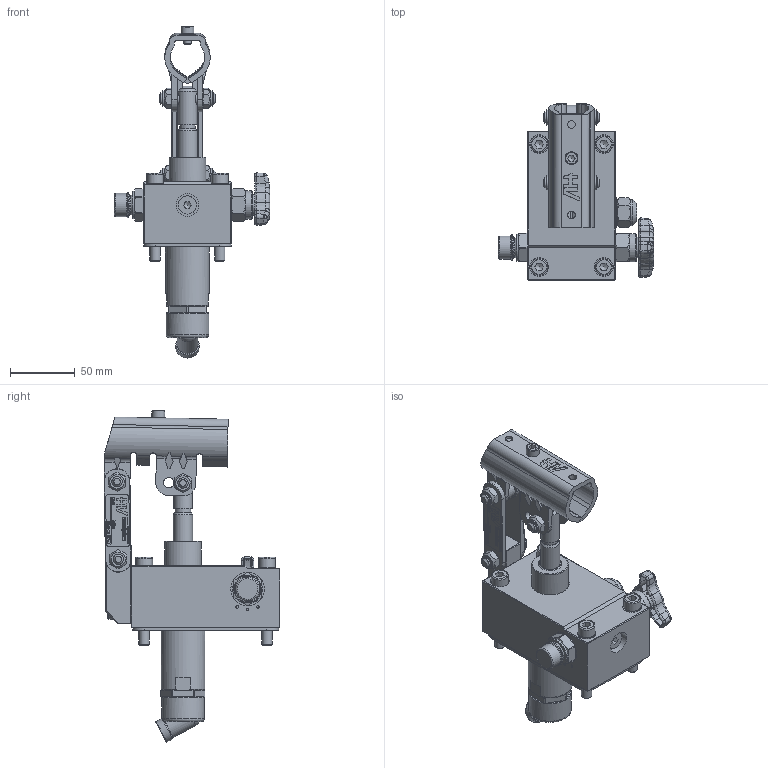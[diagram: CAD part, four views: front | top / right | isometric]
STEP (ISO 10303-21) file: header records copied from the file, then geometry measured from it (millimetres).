
FILE_DESCRIPTION((''),'2;1');
FILE_NAME('G:\HV_HYDRAULIC\AZIENDA_HV_HYDRAULIC\ARCHIVIO_DISEGNI\5_PRODOTTI_FINITI\1_POMPE_MANUALI\6050_PM_12\6050.5000_PM_12_byB_(HV)_(ZG+sig_15)_(NBR)\6050.5000.stp','2024-02-28T08:02:13',('christian.scardovi'),(''),'Autodesk Inventor 2013','Autodesk Inventor 2013','');
FILE_SCHEMA(('AUTOMOTIVE_DESIGN { 1 0 10303 214 1 1 1 1 }'));
Length unit declared in the file: millimetre
Products named in the file (1): 6050.5000
Bounding box: 120 x 135.99 x 256.81 mm (x, y, z)
Volume: 535059.6 mm3; surface area: 120631.1 mm2
Topology: 3 solids, 3 shells, 1623 faces, 4049 edges, 2557 vertices
Faces by surface type: plane 833, cylinder 294, bspline 233, cone 157, torus 101, sphere 5
Full cylindrical faces by diameter (mm): 2 x6, 4 x3, 5 x1, 6 x4, 6.5 x2, 6.8 x2, 6.917 x2, 7 x1, 8 x15, 8.917 x1, 9 x2, 9.2 x1, 10 x2, 10.376 x1, 11.05 x6, 12 x7, 13 x6, 13.2 x1, 14 x3, 14.5 x7, 14.6 x1, 14.95 x4, 15 x3, 16 x4, 16.6 x3, 17 x1, 17.5 x1, 18 x6, 20 x5, 21 x2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
Entity records: 54801 total; most frequent: CARTESIAN_POINT 17904, ORIENTED_EDGE 7402, DIRECTION 6734, EDGE_CURVE 3701, VERTEX_POINT 2464, AXIS2_PLACEMENT_3D 2379, EDGE_LOOP 2027, VECTOR 1976
